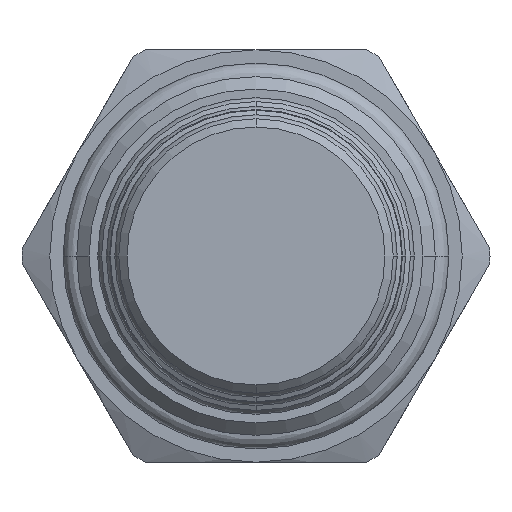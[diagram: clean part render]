
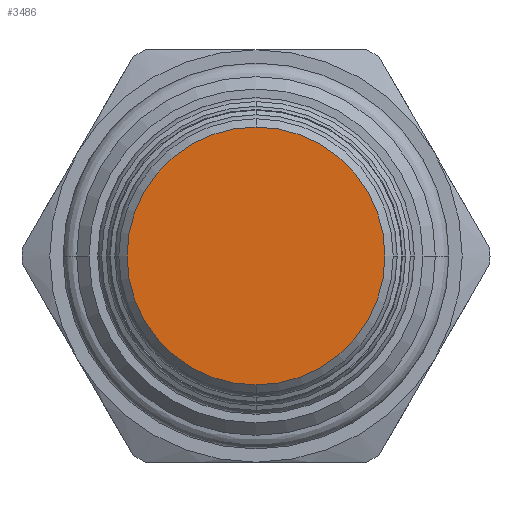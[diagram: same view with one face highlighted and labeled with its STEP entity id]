
A CAD part, front view. The second image highlights one B-rep face of the part: STEP entity #3486.
In plain terms, the highlighted planar face has unit normal (0, -1, 0).
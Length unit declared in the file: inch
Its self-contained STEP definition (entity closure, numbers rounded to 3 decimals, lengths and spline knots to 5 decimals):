
#1073=CARTESIAN_POINT('',(0.,-3.996,0.));
#1074=DIRECTION('',(0.,1.,0.));
#1075=DIRECTION('',(0.,0.,-1.));
#1076=AXIS2_PLACEMENT_3D('',#1073,#1074,#1075);
#1091=CARTESIAN_POINT('',(0.,-3.996,0.));
#1092=DIRECTION('',(0.,1.,0.));
#1093=DIRECTION('',(0.,0.,1.));
#1094=AXIS2_PLACEMENT_3D('',#1091,#1092,#1093);
#1671=CARTESIAN_POINT('',(0.,-3.996,0.469));
#1672=CARTESIAN_POINT('',(0.,-3.996,-0.469));
#1673=VERTEX_POINT('',#1671);
#1674=VERTEX_POINT('',#1672);
#3476=CARTESIAN_POINT('',(0.,-3.996,0.));
#3477=DIRECTION('',(0.,-1.,0.));
#3478=DIRECTION('',(0.,0.,1.));
#3479=AXIS2_PLACEMENT_3D('',#3476,#3477,#3478);
#3480=PLANE('',#3479);
#3481=ORIENTED_EDGE('',*,*,#3466,.T.);
#3483=ORIENTED_EDGE('',*,*,#3482,.T.);
#3484=EDGE_LOOP('',(#3481,#3483));
#3485=FACE_OUTER_BOUND('',#3484,.F.);
#3486=ADVANCED_FACE('',(#3485),#3480,.T.);
#1077=CIRCLE('',#1076,0.469);
#1095=CIRCLE('',#1094,0.469);
#3466=EDGE_CURVE('',#1674,#1673,#1077,.T.);
#3482=EDGE_CURVE('',#1673,#1674,#1095,.T.);
